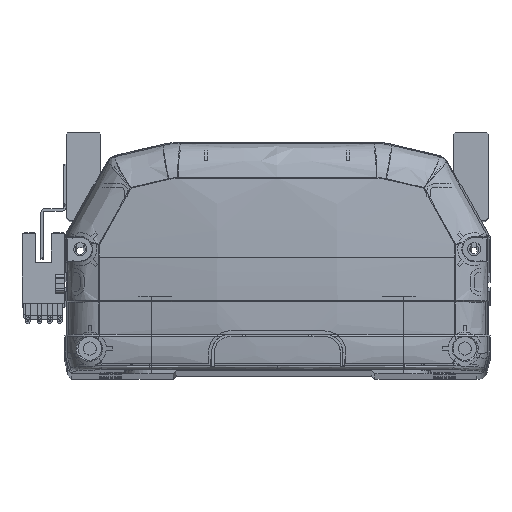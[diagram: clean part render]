
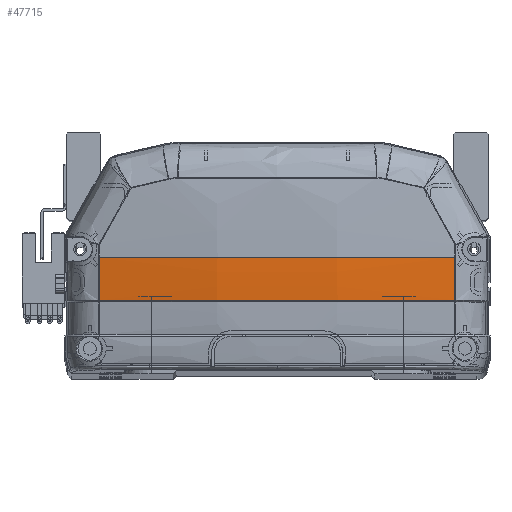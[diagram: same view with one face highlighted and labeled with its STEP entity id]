
A CAD part, top view. The second image highlights one B-rep face of the part: STEP entity #47715.
In plain terms, the highlighted free-form (B-spline) face has degree [3, 3] with [4, 4] control points.
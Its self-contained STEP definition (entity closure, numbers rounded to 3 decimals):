
#1581 = CARTESIAN_POINT ( 'NONE',  ( 38.071, 22.225, -7.566 ) ) ;
#1737 = EDGE_LOOP ( 'NONE', ( #35881, #44251, #40558, #16649, #35319 ) ) ;
#4255 = CARTESIAN_POINT ( 'NONE',  ( -19.295, 21.828, -11.186 ) ) ;
#5478 = CARTESIAN_POINT ( 'NONE',  ( 1.152, 22.225, -9.568 ) ) ;
#5842 = CARTESIAN_POINT ( 'NONE',  ( -56.647, 36., -5.158 ) ) ;
#5855 = CARTESIAN_POINT ( 'NONE',  ( 56.661, 22.225, -4.818 ) ) ;
#6057 = CARTESIAN_POINT ( 'NONE',  ( -56.661, 22.225, -4.818 ) ) ;
#7407 = DIRECTION ( 'NONE',  ( 0., 0., -1. ) ) ;
#7768 = AXIS2_PLACEMENT_3D ( 'NONE', #43576, #25933, #7407 ) ;
#8791 = CARTESIAN_POINT ( 'NONE',  ( -56.652, 26.814, -5.045 ) ) ;
#9031 = CARTESIAN_POINT ( 'NONE',  ( 56.661, 22.225, -4.818 ) ) ;
#9920 = EDGE_CURVE ( 'NONE', #27096, #34123, #17178, .T. ) ;
#10370 = CARTESIAN_POINT ( 'NONE',  ( 8.363, 22.225, -9.48 ) ) ;
#10755 = CARTESIAN_POINT ( 'NONE',  ( 23.877, 22.225, -8.763 ) ) ;
#12923 = CARTESIAN_POINT ( 'NONE',  ( -56.647, 31.405, -5.158 ) ) ;
#13087 = CARTESIAN_POINT ( 'NONE',  ( 19.295, 26.549, -11.419 ) ) ;
#16649 = ORIENTED_EDGE ( 'NONE', *, *, #18439, .T. ) ;
#17178 = B_SPLINE_CURVE_WITH_KNOTS ( 'NONE', 3,
 ( #45908, #12923, #8791, #31262 ),
 .UNSPECIFIED., .F., .F.,
 ( 4, 4 ),
 ( 0., 1. ),
 .UNSPECIFIED. ) ;
#17329 = B_SPLINE_CURVE_WITH_KNOTS ( 'NONE', 3,
 ( #5855, #46715, #1581, #10755, #50603, #23786, #10370, #28716, #19241, #5478, #50796, #55136, #6057 ),
 .UNSPECIFIED., .F., .F.,
 ( 4, 2, 2, 1, 2, 2, 4 ),
 ( 0., 0.25, 0.375, 0.438, 0.469, 0.5, 1. ),
 .UNSPECIFIED. ) ;
#17420 = CARTESIAN_POINT ( 'NONE',  ( 57.335, 22.148, -4.7 ) ) ;
#18439 = EDGE_CURVE ( 'NONE', #35501, #34123, #17329, .T. ) ;
#19241 = CARTESIAN_POINT ( 'NONE',  ( 2.357, 22.225, -9.562 ) ) ;
#21738 = CARTESIAN_POINT ( 'NONE',  ( -19.295, 31.274, -11.535 ) ) ;
#22143 = CARTESIAN_POINT ( 'NONE',  ( -19.295, 36., -11.535 ) ) ;
#22430 = CARTESIAN_POINT ( 'NONE',  ( 56.652, 26.806, -5.044 ) ) ;
#22581 = B_SPLINE_CURVE_WITH_KNOTS ( 'NONE', 3,
 ( #9031, #22430, #40511, #26798 ),
 .UNSPECIFIED., .F., .F.,
 ( 4, 4 ),
 ( 0., 1. ),
 .UNSPECIFIED. ) ;
#22985 = CARTESIAN_POINT ( 'NONE',  ( 56.647, 36., -5.158 ) ) ;
#23740 = EDGE_CURVE ( 'NONE', #32231, #47545, #28182, .T. ) ;
#23786 = CARTESIAN_POINT ( 'NONE',  ( 11.954, 22.225, -9.367 ) ) ;
#24765 =( BOUNDED_SURFACE ( )  B_SPLINE_SURFACE ( 3, 3, ( 
 ( #17420, #44907, #40414, #44320 ),
 ( #35331, #13087, #39830, #35723 ),
 ( #4255, #26305, #21738, #22143 ),
 ( #36112, #48796, #53912, #44510 ) ),
 .UNSPECIFIED., .F., .F., .F. ) 
 B_SPLINE_SURFACE_WITH_KNOTS ( ( 4, 4 ),
 ( 4, 4 ),
 ( 0., 1. ),
 ( 0., 1. ),
 .UNSPECIFIED. ) 
 GEOMETRIC_REPRESENTATION_ITEM ( )  RATIONAL_B_SPLINE_SURFACE ( (
 ( 1., 1., 1., 1.),
 ( 0.99, 0.99, 0.99, 0.99),
 ( 0.99, 0.99, 0.99, 0.99),
 ( 1., 1., 1., 1.) ) ) 
 REPRESENTATION_ITEM ( '' )  SURFACE ( )  );
#24951 = CIRCLE ( 'NONE', #7768, 340.733 ) ;
#25933 = DIRECTION ( 'NONE',  ( 0., 1., 0. ) ) ;
#26305 = CARTESIAN_POINT ( 'NONE',  ( -19.295, 26.549, -11.419 ) ) ;
#26480 = CARTESIAN_POINT ( 'NONE',  ( -56.661, 22.225, -4.818 ) ) ;
#26798 = CARTESIAN_POINT ( 'NONE',  ( 56.647, 35.969, -5.158 ) ) ;
#27096 = VERTEX_POINT ( 'NONE', #5842 ) ;
#28182 = CIRCLE ( 'NONE', #36722, 6395.966 ) ;
#28716 = CARTESIAN_POINT ( 'NONE',  ( 4.761, 22.225, -9.537 ) ) ;
#31262 = CARTESIAN_POINT ( 'NONE',  ( -56.661, 22.225, -4.818 ) ) ;
#32231 = VERTEX_POINT ( 'NONE', #56638 ) ;
#34123 = VERTEX_POINT ( 'NONE', #26480 ) ;
#35319 = ORIENTED_EDGE ( 'NONE', *, *, #9920, .F. ) ;
#35331 = CARTESIAN_POINT ( 'NONE',  ( 19.295, 21.828, -11.186 ) ) ;
#35501 = VERTEX_POINT ( 'NONE', #43561 ) ;
#35723 = CARTESIAN_POINT ( 'NONE',  ( 19.295, 36., -11.535 ) ) ;
#35881 = ORIENTED_EDGE ( 'NONE', *, *, #55313, .F. ) ;
#36112 = CARTESIAN_POINT ( 'NONE',  ( -57.335, 22.148, -4.7 ) ) ;
#36722 = AXIS2_PLACEMENT_3D ( 'NONE', #48738, #44850, #40169 ) ;
#39830 = CARTESIAN_POINT ( 'NONE',  ( 19.295, 31.274, -11.535 ) ) ;
#40147 = FACE_OUTER_BOUND ( 'NONE', #1737, .T. ) ;
#40169 = DIRECTION ( 'NONE',  ( -1., 0., 0. ) ) ;
#40414 = CARTESIAN_POINT ( 'NONE',  ( 57.335, 31.38, -5.042 ) ) ;
#40511 = CARTESIAN_POINT ( 'NONE',  ( 56.647, 31.387, -5.158 ) ) ;
#40558 = ORIENTED_EDGE ( 'NONE', *, *, #47000, .F. ) ;
#43561 = CARTESIAN_POINT ( 'NONE',  ( 56.661, 22.225, -4.818 ) ) ;
#43576 = CARTESIAN_POINT ( 'NONE',  ( 0., 36., 330.833 ) ) ;
#44251 = ORIENTED_EDGE ( 'NONE', *, *, #23740, .F. ) ;
#44320 = CARTESIAN_POINT ( 'NONE',  ( 57.335, 36., -5.042 ) ) ;
#44510 = CARTESIAN_POINT ( 'NONE',  ( -57.335, 36., -5.042 ) ) ;
#44850 = DIRECTION ( 'NONE',  ( 0., 0., -1. ) ) ;
#44907 = CARTESIAN_POINT ( 'NONE',  ( 57.335, 26.762, -4.928 ) ) ;
#45908 = CARTESIAN_POINT ( 'NONE',  ( -56.647, 36., -5.158 ) ) ;
#46715 = CARTESIAN_POINT ( 'NONE',  ( 47.432, 22.225, -6.377 ) ) ;
#47000 = EDGE_CURVE ( 'NONE', #35501, #32231, #22581, .T. ) ;
#47545 = VERTEX_POINT ( 'NONE', #22985 ) ;
#47715 = ADVANCED_FACE ( 'NONE', ( #40147 ), #24765, .T. ) ;
#48738 = CARTESIAN_POINT ( 'NONE',  ( 6452.613, 35.969, -5.158 ) ) ;
#48796 = CARTESIAN_POINT ( 'NONE',  ( -57.335, 26.762, -4.928 ) ) ;
#50603 = CARTESIAN_POINT ( 'NONE',  ( 19.121, 22.225, -9.064 ) ) ;
#50796 = CARTESIAN_POINT ( 'NONE',  ( -19.28, 22.225, -9.565 ) ) ;
#53912 = CARTESIAN_POINT ( 'NONE',  ( -57.335, 31.38, -5.042 ) ) ;
#55136 = CARTESIAN_POINT ( 'NONE',  ( -38.235, 22.225, -7.93 ) ) ;
#55313 = EDGE_CURVE ( 'NONE', #47545, #27096, #24951, .T. ) ;
#56638 = CARTESIAN_POINT ( 'NONE',  ( 56.647, 35.969, -5.158 ) ) ;
